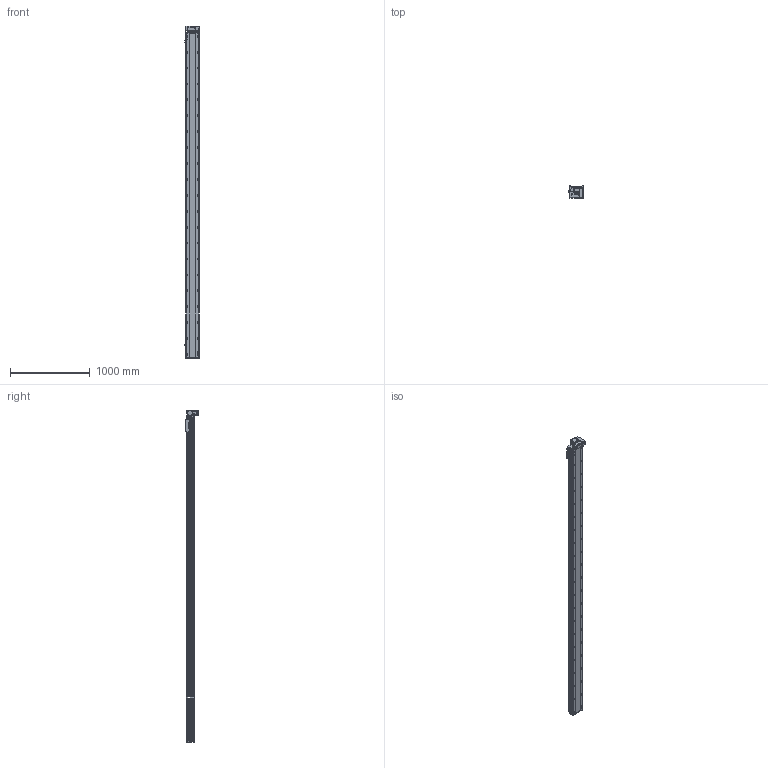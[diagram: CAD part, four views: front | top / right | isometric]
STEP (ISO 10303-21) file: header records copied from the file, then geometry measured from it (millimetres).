
FILE_DESCRIPTION (( 'STEP AP214' ), '1' );
FILE_NAME ('RTB17S-XX-3800-RM-M40-C4.STEP', '2025-12-11T08:41:22', ( '' ), ( '' ), 'SwSTEP 2.0', 'SolidWorks 2018', '' );
FILE_SCHEMA (( 'AUTOMOTIVE_DESIGN' ));
Length unit declared in the file: millimetre
Products named in the file (14): 400W侜督萇儂^RTB17S-XX-XX-RM-M40-C4; RTH13-BL-012覜茼え俋离^RTB17S-XX-XX-RM-M40-C4; RTB17S-L-001耜醱啣^RTB17S-XX-XX-RM-M40-C4; RTB17S-L-004佪裝蹟譫蟀諉釱^RTB17S-XX-XX-RM-M40-C4; OMRON EE-SX672 传感器^RTB17S-XX-XX-RM-M40-C4; RTB17S-RM-々湍釱蚾饜-400W^RTB17S-XX-XX-RM-M40-C4; RTB17S-L-007奻裔^RTB17S-XX-XX-RM-M40-C4; RTB14-L-018P^RTB17S-RM-々湍釱蚾饜-400W_RTB17S-XX-XX-RM-M40-C4; RTB17-R-011菁釱^RTB17S-XX-XX-RM-M40-C4; RTB14-L-017P^RTB17S-RM-々湍釱蚾饜-400W_RTB17S-XX-XX-RM-M40-C4; RTB17S-XX-3800-RM-M40-C4; RTB14-L-008-M20--萇儂啣^RTB17S-RM-々湍釱蚾饜-400W_RTB17S-XX-XX-RM-M40-C4; RTB14-L-005P--轴承塑胶压盖^RTB17S-RM-皮带座装配-400W_RTB17S-XX-XX-RM-M40-C4; RTB17S-L-014-T20--々湍釱^RTB17S-RM-々湍釱蚾饜-400W_RTB17S-XX-XX-RM-M40-C4
Assembly tree (16 placements, depth 3):
  RTB17S-XX-3800-RM-M40-C4
    RTB17-R-011菁釱^RTB17S-XX-XX-RM-M40-C4
    RTB17S-L-007奻裔^RTB17S-XX-XX-RM-M40-C4
    OMRON EE-SX672 传感器^RTB17S-XX-XX-RM-M40-C4  x3
    RTB17S-L-001耜醱啣^RTB17S-XX-XX-RM-M40-C4
    400W侜督萇儂^RTB17S-XX-XX-RM-M40-C4
    RTB17S-L-004佪裝蹟譫蟀諉釱^RTB17S-XX-XX-RM-M40-C4
    RTH13-BL-012覜茼え俋离^RTB17S-XX-XX-RM-M40-C4
    RTB17S-RM-々湍釱蚾饜-400W^RTB17S-XX-XX-RM-M40-C4
      RTB17S-L-014-T20--々湍釱^RTB17S-RM-々湍釱蚾饜-400W_RTB17S-XX-XX-RM-M40-C4
      RTB14-L-005P--轴承塑胶压盖^RTB17S-RM-皮带座装配-400W_RTB17S-XX-XX-RM-M40-C4
      RTB14-L-008-M20--萇儂啣^RTB17S-RM-々湍釱蚾饜-400W_RTB17S-XX-XX-RM-M40-C4
      RTB14-L-017P^RTB17S-RM-々湍釱蚾饜-400W_RTB17S-XX-XX-RM-M40-C4  x2
      RTB14-L-018P^RTB17S-RM-々湍釱蚾饜-400W_RTB17S-XX-XX-RM-M40-C4
Bounding box: 183.5 x 156.5 x 4172.5 mm (x, y, z)
Volume: 35210719.4 mm3; surface area: 3987181.4 mm2
Topology: 15 solids, 15 shells, 2429 faces, 6843 edges, 4473 vertices
Faces by surface type: plane 1096, cylinder 885, bspline 301, cone 139, torus 8
Entity records: 73385 total; most frequent: CARTESIAN_POINT 21048, ORIENTED_EDGE 10530, DIRECTION 9656, EDGE_CURVE 5265, VERTEX_POINT 3461, AXIS2_PLACEMENT_3D 3391, LINE 2874, VECTOR 2874
